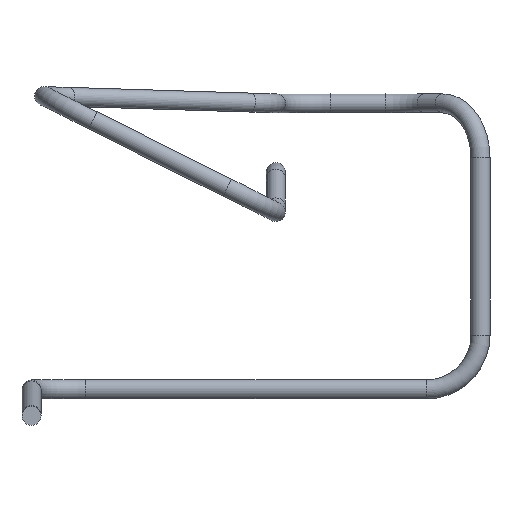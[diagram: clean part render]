
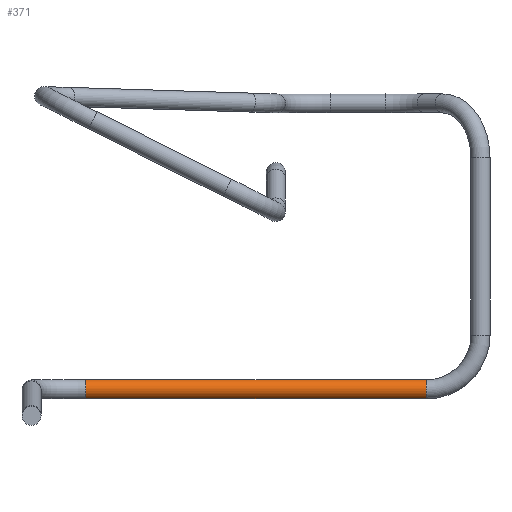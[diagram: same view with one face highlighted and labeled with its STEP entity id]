
A CAD part, front view. The second image highlights one B-rep face of the part: STEP entity #371.
In plain terms, the highlighted cylindrical face has radius 0.525 mm (diameter 1.05 mm), a full revolution.
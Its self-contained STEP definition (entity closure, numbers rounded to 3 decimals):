
#305 = TOROIDAL_SURFACE('',#306,3.,0.525);
#306 = AXIS2_PLACEMENT_3D('',#307,#308,#309);
#307 = CARTESIAN_POINT('',(10.5,44.65,-19.3));
#308 = DIRECTION('',(-0.,0.,-1.));
#309 = DIRECTION('',(-1.,0.,0.));
#322 = VERTEX_POINT('',#323);
#323 = CARTESIAN_POINT('',(10.5,47.65,-18.775));
#344 = EDGE_CURVE('',#322,#322,#345,.T.);
#345 = SURFACE_CURVE('',#346,(#351,#358),.PCURVE_S1.);
#346 = CIRCLE('',#347,0.525);
#347 = AXIS2_PLACEMENT_3D('',#348,#349,#350);
#348 = CARTESIAN_POINT('',(10.5,47.65,-19.3));
#349 = DIRECTION('',(-1.,0.,0.));
#350 = DIRECTION('',(0.,1.,0.));
#351 = PCURVE('',#305,#352);
#352 = DEFINITIONAL_REPRESENTATION('',(#353),#357);
#353 = LINE('',#354,#355);
#354 = CARTESIAN_POINT('',(1.571,0.));
#355 = VECTOR('',#356,1.);
#356 = DIRECTION('',(0.,1.));
#357 = ( GEOMETRIC_REPRESENTATION_CONTEXT(2) 
PARAMETRIC_REPRESENTATION_CONTEXT() REPRESENTATION_CONTEXT('2D SPACE',''
  ) );
#358 = PCURVE('',#359,#364);
#359 = CYLINDRICAL_SURFACE('',#360,0.525);
#360 = AXIS2_PLACEMENT_3D('',#361,#362,#363);
#361 = CARTESIAN_POINT('',(10.5,47.65,-19.3));
#362 = DIRECTION('',(1.,0.,0.));
#363 = DIRECTION('',(0.,0.,1.));
#364 = DEFINITIONAL_REPRESENTATION('',(#365),#368);
#365 = B_SPLINE_CURVE_WITH_KNOTS('',1,(#366,#367),.UNSPECIFIED.,.F.,.F.,
  (2,2),(4.712,10.996),.PIECEWISE_BEZIER_KNOTS.);
#366 = CARTESIAN_POINT('',(6.283,0.));
#367 = CARTESIAN_POINT('',(0.,0.));
#368 = ( GEOMETRIC_REPRESENTATION_CONTEXT(2) 
PARAMETRIC_REPRESENTATION_CONTEXT() REPRESENTATION_CONTEXT('2D SPACE',''
  ) );
#371 = ADVANCED_FACE('',(#372),#359,.T.);
#372 = FACE_BOUND('',#373,.T.);
#373 = EDGE_LOOP('',(#374,#396,#422,#423));
#374 = ORIENTED_EDGE('',*,*,#375,.T.);
#375 = EDGE_CURVE('',#322,#376,#378,.T.);
#376 = VERTEX_POINT('',#377);
#377 = CARTESIAN_POINT('',(29.3,47.65,-18.775));
#378 = SEAM_CURVE('',#379,(#383,#389),.PCURVE_S1.);
#379 = LINE('',#380,#381);
#380 = CARTESIAN_POINT('',(10.5,47.65,-18.775));
#381 = VECTOR('',#382,1.);
#382 = DIRECTION('',(1.,0.,0.));
#383 = PCURVE('',#359,#384);
#384 = DEFINITIONAL_REPRESENTATION('',(#385),#388);
#385 = B_SPLINE_CURVE_WITH_KNOTS('',1,(#386,#387),.UNSPECIFIED.,.F.,.F.,
  (2,2),(0.,18.8),.PIECEWISE_BEZIER_KNOTS.);
#386 = CARTESIAN_POINT('',(6.283,0.));
#387 = CARTESIAN_POINT('',(6.283,18.8));
#388 = ( GEOMETRIC_REPRESENTATION_CONTEXT(2) 
PARAMETRIC_REPRESENTATION_CONTEXT() REPRESENTATION_CONTEXT('2D SPACE',''
  ) );
#389 = PCURVE('',#359,#390);
#390 = DEFINITIONAL_REPRESENTATION('',(#391),#395);
#391 = LINE('',#392,#393);
#392 = CARTESIAN_POINT('',(0.,0.));
#393 = VECTOR('',#394,1.);
#394 = DIRECTION('',(0.,1.));
#395 = ( GEOMETRIC_REPRESENTATION_CONTEXT(2) 
PARAMETRIC_REPRESENTATION_CONTEXT() REPRESENTATION_CONTEXT('2D SPACE',''
  ) );
#396 = ORIENTED_EDGE('',*,*,#397,.F.);
#397 = EDGE_CURVE('',#376,#376,#398,.T.);
#398 = SURFACE_CURVE('',#399,(#404,#411),.PCURVE_S1.);
#399 = CIRCLE('',#400,0.525);
#400 = AXIS2_PLACEMENT_3D('',#401,#402,#403);
#401 = CARTESIAN_POINT('',(29.3,47.65,-19.3));
#402 = DIRECTION('',(1.,0.,-0.));
#403 = DIRECTION('',(0.,0.,1.));
#404 = PCURVE('',#359,#405);
#405 = DEFINITIONAL_REPRESENTATION('',(#406),#410);
#406 = LINE('',#407,#408);
#407 = CARTESIAN_POINT('',(0.,18.8));
#408 = VECTOR('',#409,1.);
#409 = DIRECTION('',(1.,0.));
#410 = ( GEOMETRIC_REPRESENTATION_CONTEXT(2) 
PARAMETRIC_REPRESENTATION_CONTEXT() REPRESENTATION_CONTEXT('2D SPACE',''
  ) );
#411 = PCURVE('',#412,#417);
#412 = TOROIDAL_SURFACE('',#413,3.,0.525);
#413 = AXIS2_PLACEMENT_3D('',#414,#415,#416);
#414 = CARTESIAN_POINT('',(29.3,47.65,-16.3));
#415 = DIRECTION('',(0.,-1.,0.));
#416 = DIRECTION('',(0.,0.,-1.));
#417 = DEFINITIONAL_REPRESENTATION('',(#418),#421);
#418 = B_SPLINE_CURVE_WITH_KNOTS('',1,(#419,#420),.UNSPECIFIED.,.F.,.F.,
  (2,2),(0.,6.283),.PIECEWISE_BEZIER_KNOTS.);
#419 = CARTESIAN_POINT('',(0.,9.425));
#420 = CARTESIAN_POINT('',(0.,3.142));
#421 = ( GEOMETRIC_REPRESENTATION_CONTEXT(2) 
PARAMETRIC_REPRESENTATION_CONTEXT() REPRESENTATION_CONTEXT('2D SPACE',''
  ) );
#422 = ORIENTED_EDGE('',*,*,#375,.F.);
#423 = ORIENTED_EDGE('',*,*,#344,.F.);
